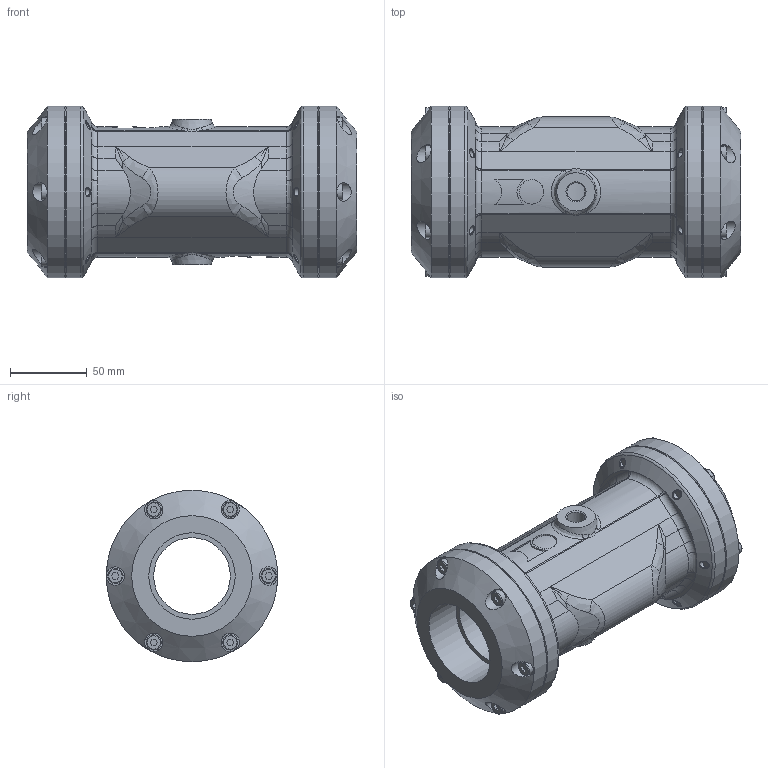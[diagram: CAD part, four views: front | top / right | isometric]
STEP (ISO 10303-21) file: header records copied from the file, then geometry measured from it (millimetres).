
FILE_DESCRIPTION(/* description */ (''),/* implementation_level */ '2;1');
FILE_NAME(/* name */ 'QSV50_assembly_VEREINFACHT.stp',/* time_stamp */ '2013-09-17T21:37:57+02:00',/* author */ (''),/* organization */ (''),/* preprocessor_version */ 'ST-DEVELOPER v11',/* originating_system */ 'SIEMENS PLM Software NX 7.5',/* authorisation */ '');
FILE_SCHEMA (('AUTOMOTIVE_DESIGN { 1 0 10303 214 1 1 1 1 }'));
Length unit declared in the file: millimetre
Products named in the file (1): memdEBF5a2pp
Bounding box: 215 x 112 x 112 mm (x, y, z)
Volume: 1013814.2 mm3; surface area: 162980.5 mm2
Topology: 15 solids, 15 shells, 495 faces, 1131 edges, 697 vertices
Faces by surface type: plane 172, cylinder 149, bspline 69, torus 54, cone 51
Full cylindrical faces by diameter (mm): 5 x10, 6.5 x12, 11.801 x1, 12 x12, 16 x2, 50 x1, 56.358 x2, 81.7 x2, 91.7 x2, 112 x4
Entity records: 16113 total; most frequent: CARTESIAN_POINT 5623, DIRECTION 2134, ORIENTED_EDGE 2020, EDGE_CURVE 1010, AXIS2_PLACEMENT_3D 875, EDGE_LOOP 657, VERTEX_POINT 653, ADVANCED_FACE 495
